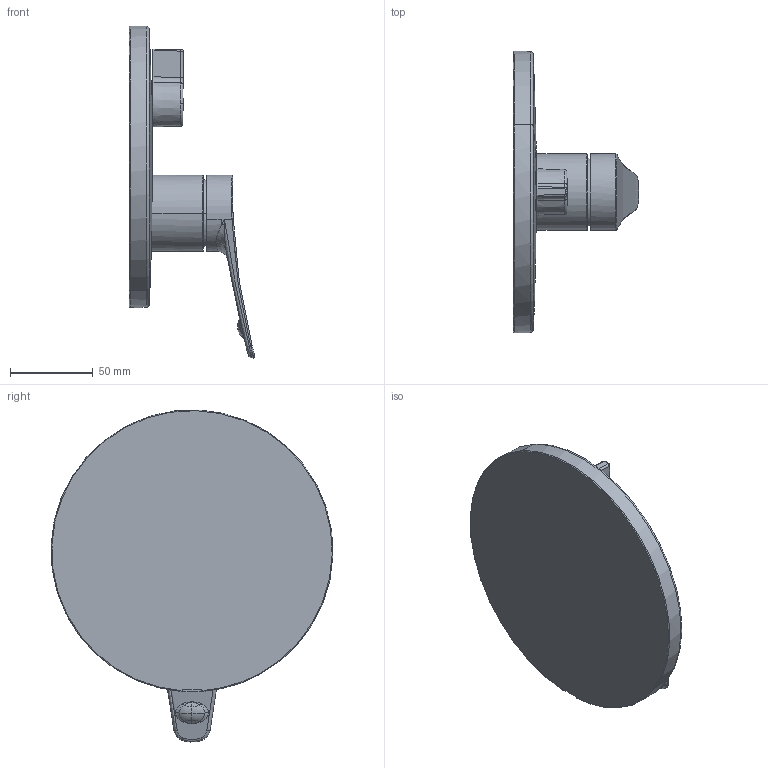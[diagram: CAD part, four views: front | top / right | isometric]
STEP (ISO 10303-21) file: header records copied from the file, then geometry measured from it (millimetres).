
FILE_DESCRIPTION((''),'2;1');
FILE_NAME('20_404_502_XXX','2018-02-21T',('ES997'),(''),'CREO PARAMETRIC BY PTC INC, 2016260','CREO PARAMETRIC BY PTC INC, 2016260','');
FILE_SCHEMA(('CONFIG_CONTROL_DESIGN'));
Products named in the file (1): 20_404_502_XXX
Bounding box: 75.72 x 169.87 x 200.1 mm (x, y, z)
Volume: 345925.4 mm3; surface area: 80607.6 mm2
Topology: 3 solids, 3 shells, 711 faces, 1654 edges, 943 vertices
Faces by surface type: bspline 278, cylinder 160, torus 98, plane 83, cone 50, sphere 42
Entity records: 39274 total; most frequent: CARTESIAN_POINT 25433, ORIENTED_EDGE 3284, DIRECTION 2281, EDGE_CURVE 1642, AXIS2_PLACEMENT_3D 980, VERTEX_POINT 943, B_SPLINE_CURVE_WITH_KNOTS 774, EDGE_LOOP 727
